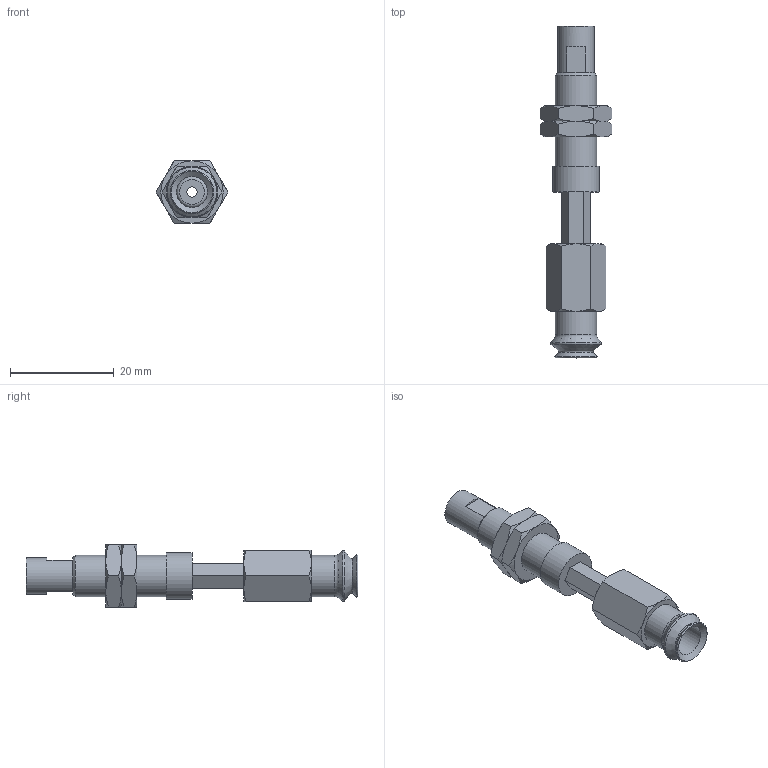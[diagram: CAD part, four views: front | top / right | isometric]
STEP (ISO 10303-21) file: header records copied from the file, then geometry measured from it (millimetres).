
FILE_DESCRIPTION(('STEP AP203'),'1');
FILE_NAME('.stp','2025-08-27T06:27:06',(' '),(' '),'Spatial InterOp 3D',' ',' ');
FILE_SCHEMA(('CONFIG_CONTROL_DESIGN'));
Length unit declared in the file: millimetre
Products named in the file (6): BNABPJTH-8-10-※; ADAPTER; NAPATH-10A-10--M; NAPJH-8-10-NUT; NAPJTH-8-10-FBODY; BPJG-8-※
Assembly tree (6 placements, depth 2):
  BNABPJTH-8-10-※
    ADAPTER
    NAPATH-10A-10--M
    NAPJH-8-10-NUT  x2
    NAPJTH-8-10-FBODY
    BPJG-8-※
Bounding box: 13.86 x 64 x 12 mm (x, y, z)
Volume: 3452.9 mm3; surface area: 4117.5 mm2
Topology: 6 solids, 6 shells, 120 faces, 260 edges, 157 vertices
Faces by surface type: plane 51, cone 47, cylinder 13, torus 9
Full cylindrical faces by diameter (mm): 2 x2, 4 x2, 4.134 x1, 6 x2, 7 x1, 7.188 x2, 8 x2, 9 x1
Entity records: 2920 total; most frequent: CARTESIAN_POINT 688, DIRECTION 402, ORIENTED_EDGE 348, EDGE_CURVE 174, AXIS2_PLACEMENT_3D 172, EDGE_LOOP 142, VERTEX_POINT 122, FACE_OUTER_BOUND 118
